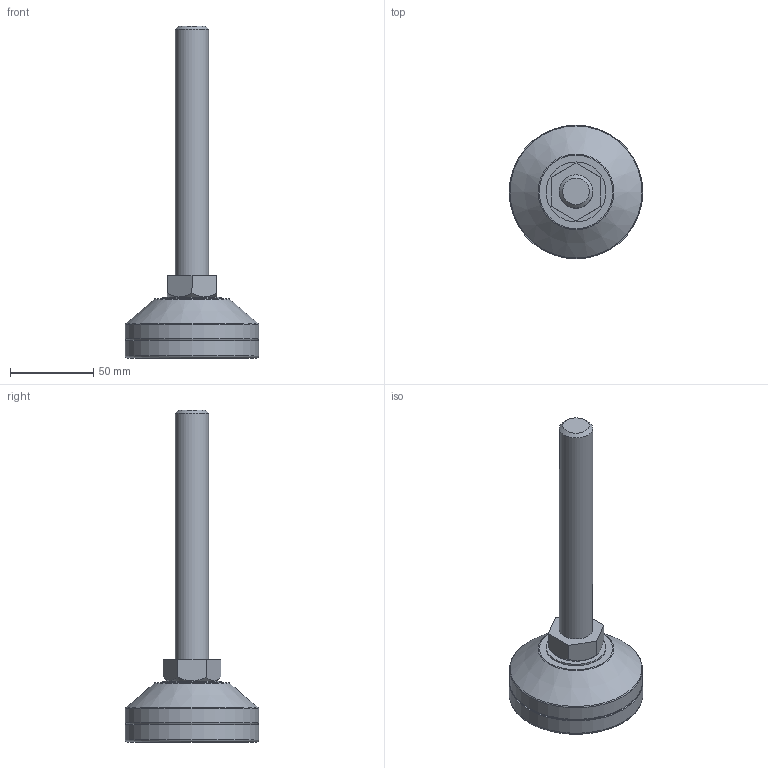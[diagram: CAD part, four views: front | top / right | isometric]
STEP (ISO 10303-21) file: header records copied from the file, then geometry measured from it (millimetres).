
FILE_DESCRIPTION(/* description */ (''),/* implementation_level */ '2;1');
FILE_NAME(/* name */ 'D:\조절자\FR\FR-M20-150L.stp',/* time_stamp */ '2016-03-14T14:37:05+09:00',/* author */ ('GS-DT-1-001'),/* organization */ (''),/* preprocessor_version */ 'ST-DEVELOPER v15.6',/* originating_system */ 'Autodesk Inventor LT ',/* authorisation */ '');
FILE_SCHEMA (('AUTOMOTIVE_DESIGN { 1 0 10303 214 3 1 1 }'));
Length unit declared in the file: millimetre
Products named in the file (1): FR-M20-150L
Bounding box: 80.4 x 80.4 x 199.5 mm (x, y, z)
Volume: 199017.1 mm3; surface area: 47624 mm2
Topology: 5 solids, 5 shells, 68 faces, 118 edges, 72 vertices
Faces by surface type: plane 28, torus 15, cylinder 15, cone 10
Full cylindrical faces by diameter (mm): 6.912 x1, 8 x1, 8.2 x1, 8.3 x1, 16 x1, 20 x1, 30 x1, 36 x1, 50 x1, 57 x1, 61 x1, 71 x1, 75 x1, 80 x1, 80.4 x1
Entity records: 1424 total; most frequent: DIRECTION 266, CARTESIAN_POINT 227, ORIENTED_EDGE 152, AXIS2_PLACEMENT_3D 127, EDGE_LOOP 124, EDGE_CURVE 76, VERTEX_POINT 70, FACE_OUTER_BOUND 68
